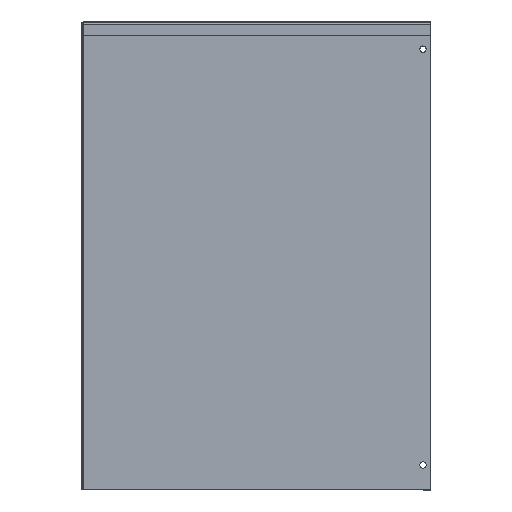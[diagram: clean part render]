
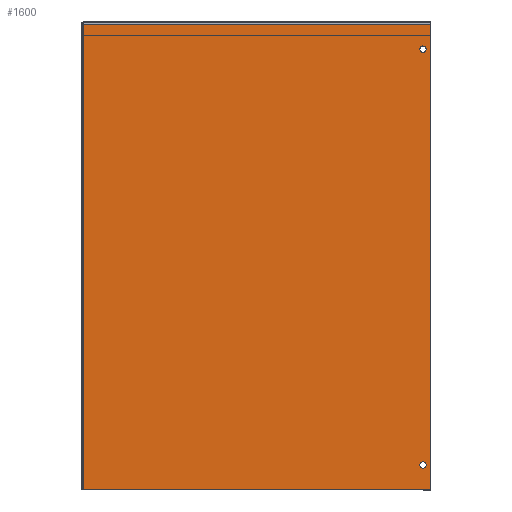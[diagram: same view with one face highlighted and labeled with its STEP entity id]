
A CAD part, left-side view. The second image highlights one B-rep face of the part: STEP entity #1600.
In plain terms, the highlighted planar face has unit normal (-1, 0, 0) as drawn and (0, 0, 1) by its records, which use the part's own axes.
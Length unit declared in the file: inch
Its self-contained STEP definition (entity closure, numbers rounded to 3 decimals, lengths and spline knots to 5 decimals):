
#46 = LINE ( 'NONE', #509, #210 ) ;
#129 = AXIS2_PLACEMENT_3D ( 'NONE', #314, #295, #301 ) ;
#151 = ORIENTED_EDGE ( 'NONE', *, *, #947, .T. ) ;
#152 = EDGE_CURVE ( 'NONE', #2121, #192, #484, .T. ) ;
#159 = LINE ( 'NONE', #1385, #411 ) ;
#177 = CIRCLE ( 'NONE', #1349, 0.125 ) ;
#190 = ORIENTED_EDGE ( 'NONE', *, *, #346, .F. ) ;
#192 = VERTEX_POINT ( 'NONE', #1082 ) ;
#197 = DIRECTION ( 'NONE',  ( 1., 0., 0. ) ) ;
#203 = VERTEX_POINT ( 'NONE', #1516 ) ;
#208 = VERTEX_POINT ( 'NONE', #1223 ) ;
#210 = VECTOR ( 'NONE', #489, 39.37008 ) ;
#240 = VERTEX_POINT ( 'NONE', #646 ) ;
#288 = VERTEX_POINT ( 'NONE', #1815 ) ;
#289 = CARTESIAN_POINT ( 'NONE',  ( 41.27652, 2.28832, 0.038 ) ) ;
#295 = DIRECTION ( 'NONE',  ( 0., 0., 1. ) ) ;
#301 = DIRECTION ( 'NONE',  ( 1., 0., 0. ) ) ;
#303 = FACE_OUTER_BOUND ( 'NONE', #1788, .T. ) ;
#314 = CARTESIAN_POINT ( 'NONE',  ( 27.6245, 3.28832, 0.038 ) ) ;
#346 = EDGE_CURVE ( 'NONE', #1219, #240, #177, .T. ) ;
#391 = EDGE_CURVE ( 'NONE', #208, #192, #159, .T. ) ;
#411 = VECTOR ( 'NONE', #1391, 39.37008 ) ;
#484 = LINE ( 'NONE', #289, #764 ) ;
#489 = DIRECTION ( 'NONE',  ( -1., 0., 0. ) ) ;
#504 = ORIENTED_EDGE ( 'NONE', *, *, #391, .F. ) ;
#506 = EDGE_CURVE ( 'NONE', #203, #288, #1504, .T. ) ;
#509 = CARTESIAN_POINT ( 'NONE',  ( 41.27652, 20.94457, 0.038 ) ) ;
#543 = CARTESIAN_POINT ( 'NONE',  ( 27.4995, 19.94457, 0.038 ) ) ;
#547 = FACE_BOUND ( 'NONE', #704, .T. ) ;
#618 = EDGE_CURVE ( 'NONE', #288, #203, #1744, .T. ) ;
#646 = CARTESIAN_POINT ( 'NONE',  ( 27.7495, 19.94457, 0.038 ) ) ;
#704 = EDGE_LOOP ( 'NONE', ( #190, #2092 ) ) ;
#744 = CARTESIAN_POINT ( 'NONE',  ( 27.312, 2.28832, 0.038 ) ) ;
#746 = AXIS2_PLACEMENT_3D ( 'NONE', #1142, #1138, #1131 ) ;
#764 = VECTOR ( 'NONE', #197, 39.37008 ) ;
#819 = EDGE_CURVE ( 'NONE', #240, #1219, #1650, .T. ) ;
#929 = CARTESIAN_POINT ( 'NONE',  ( 50.60465, 11.61644, 0.038 ) ) ;
#930 = AXIS2_PLACEMENT_3D ( 'NONE', #1458, #1466, #1447 ) ;
#933 = PLANE ( 'NONE',  #981 ) ;
#935 = DIRECTION ( 'NONE',  ( 0., 0., -1. ) ) ;
#937 = DIRECTION ( 'NONE',  ( -1., 0., 0. ) ) ;
#947 = EDGE_CURVE ( 'NONE', #208, #1631, #46, .T. ) ;
#976 = FACE_BOUND ( 'NONE', #1300, .T. ) ;
#980 = CARTESIAN_POINT ( 'NONE',  ( 27.312, 20.94457, 0.038 ) ) ;
#981 = AXIS2_PLACEMENT_3D ( 'NONE', #929, #935, #937 ) ;
#1052 = CARTESIAN_POINT ( 'NONE',  ( 27.312, 2.28832, 0.038 ) ) ;
#1082 = CARTESIAN_POINT ( 'NONE',  ( 41.22707, 2.28832, 0.038 ) ) ;
#1085 = VECTOR ( 'NONE', #1509, 39.37008 ) ;
#1131 = DIRECTION ( 'NONE',  ( 1., 0., 0. ) ) ;
#1138 = DIRECTION ( 'NONE',  ( 0., 0., 1. ) ) ;
#1142 = CARTESIAN_POINT ( 'NONE',  ( 27.6245, 3.28832, 0.038 ) ) ;
#1146 = ORIENTED_EDGE ( 'NONE', *, *, #506, .F. ) ;
#1219 = VERTEX_POINT ( 'NONE', #543 ) ;
#1223 = CARTESIAN_POINT ( 'NONE',  ( 41.22707, 20.94457, 0.038 ) ) ;
#1248 = ORIENTED_EDGE ( 'NONE', *, *, #618, .F. ) ;
#1300 = EDGE_LOOP ( 'NONE', ( #1146, #1248 ) ) ;
#1349 = AXIS2_PLACEMENT_3D ( 'NONE', #1475, #1472, #1459 ) ;
#1385 = CARTESIAN_POINT ( 'NONE',  ( 41.22707, 11.61644, 0.038 ) ) ;
#1391 = DIRECTION ( 'NONE',  ( 0., -1., 0. ) ) ;
#1447 = DIRECTION ( 'NONE',  ( 1., 0., 0. ) ) ;
#1458 = CARTESIAN_POINT ( 'NONE',  ( 27.6245, 19.94457, 0.038 ) ) ;
#1459 = DIRECTION ( 'NONE',  ( 1., 0., 0. ) ) ;
#1466 = DIRECTION ( 'NONE',  ( 0., 0., 1. ) ) ;
#1472 = DIRECTION ( 'NONE',  ( 0., 0., 1. ) ) ;
#1475 = CARTESIAN_POINT ( 'NONE',  ( 27.6245, 19.94457, 0.038 ) ) ;
#1504 = CIRCLE ( 'NONE', #746, 0.125 ) ;
#1509 = DIRECTION ( 'NONE',  ( 0., -1., 0. ) ) ;
#1516 = CARTESIAN_POINT ( 'NONE',  ( 27.4995, 3.28832, 0.038 ) ) ;
#1597 = ORIENTED_EDGE ( 'NONE', *, *, #152, .T. ) ;
#1600 = ADVANCED_FACE ( 'NONE', ( #303, #976, #547 ), #933, .F. ) ;
#1631 = VERTEX_POINT ( 'NONE', #980 ) ;
#1649 = ORIENTED_EDGE ( 'NONE', *, *, #2096, .T. ) ;
#1650 = CIRCLE ( 'NONE', #930, 0.125 ) ;
#1705 = LINE ( 'NONE', #1052, #1085 ) ;
#1744 = CIRCLE ( 'NONE', #129, 0.125 ) ;
#1788 = EDGE_LOOP ( 'NONE', ( #504, #151, #1649, #1597 ) ) ;
#1815 = CARTESIAN_POINT ( 'NONE',  ( 27.7495, 3.28832, 0.038 ) ) ;
#2092 = ORIENTED_EDGE ( 'NONE', *, *, #819, .F. ) ;
#2096 = EDGE_CURVE ( 'NONE', #1631, #2121, #1705, .T. ) ;
#2121 = VERTEX_POINT ( 'NONE', #744 ) ;
